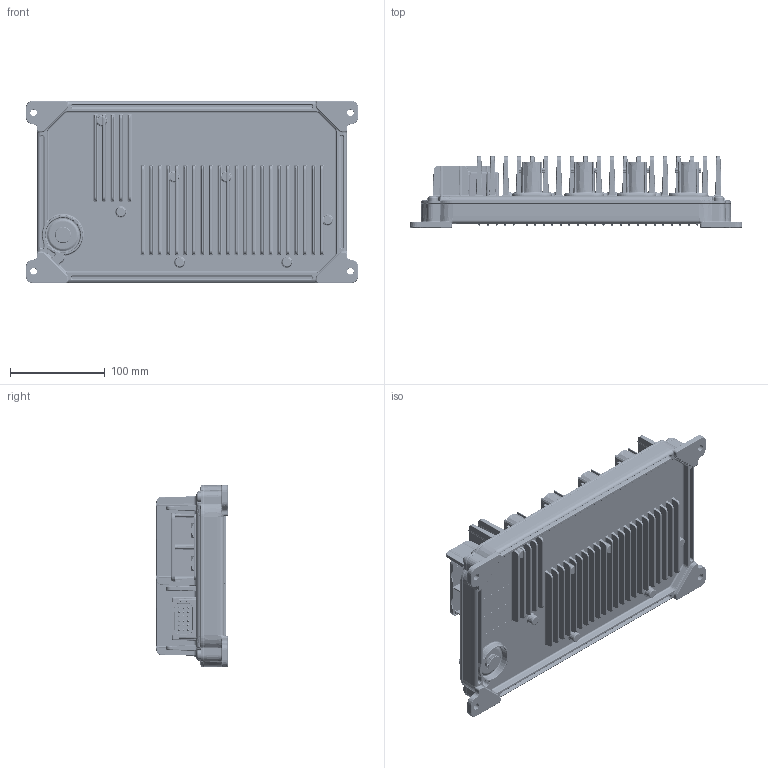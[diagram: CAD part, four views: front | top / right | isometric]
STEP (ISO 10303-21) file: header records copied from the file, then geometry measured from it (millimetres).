
FILE_DESCRIPTION (( 'STEP AP214' ), '1' );
FILE_NAME ('58020007.STEP', '2024-11-15T13:41:36', ( '' ), ( '' ), 'SwSTEP 2.0', 'SolidWorks 2022', '' );
FILE_SCHEMA (( 'AUTOMOTIVE_DESIGN' ));
Length unit declared in the file: millimetre
Products named in the file (1): 58020007
Bounding box: 349.97 x 75 x 191.93 mm (x, y, z)
Volume: 1990371 mm3; surface area: 441679.2 mm2
Topology: 2 solids, 2 shells, 10289 faces, 23773 edges, 13440 vertices
Faces by surface type: cylinder 3152, bspline 2977, plane 1970, torus 1127, sphere 642, cone 421
Entity records: 453863 total; most frequent: CARTESIAN_POINT 192483, ORIENTED_EDGE 47002, DIRECTION 41547, EDGE_CURVE 23501, AXIS2_PLACEMENT_3D 16689, VERTEX_POINT 13424, EDGE_LOOP 10523, ADVANCED_FACE 10289
